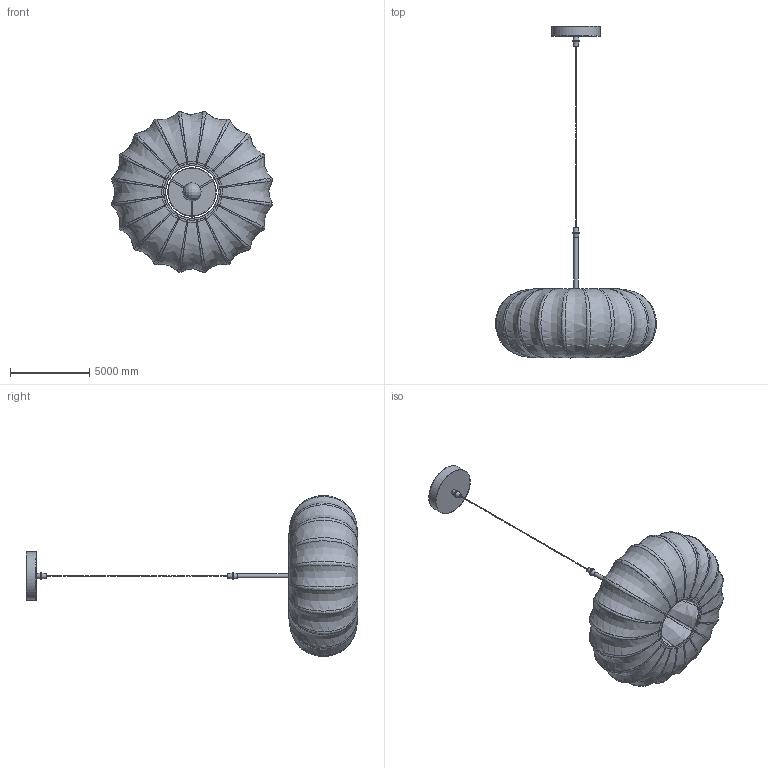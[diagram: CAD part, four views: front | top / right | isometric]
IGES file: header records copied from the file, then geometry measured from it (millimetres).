
Global section: file name: Verona Pendant Lamp-D15.7″,4; native system: 8HAutoCAD 2022 - 简体中文 (Simplified Chinese); preprocessor: Autodesk Translation Framework DWG producer (atf_dwg_producer); organization: unknown; date: 20250326.161346; units: inch
Bounding box: 10135.15 x 20895.07 x 10137.27 mm (x, y, z)
Volume: 12732240180.5 mm3; surface area: 485087800.1 mm2
Topology: 14 solids, 14 shells, 239 faces, 577 edges, 367 vertices
Faces by surface type: bspline 239
